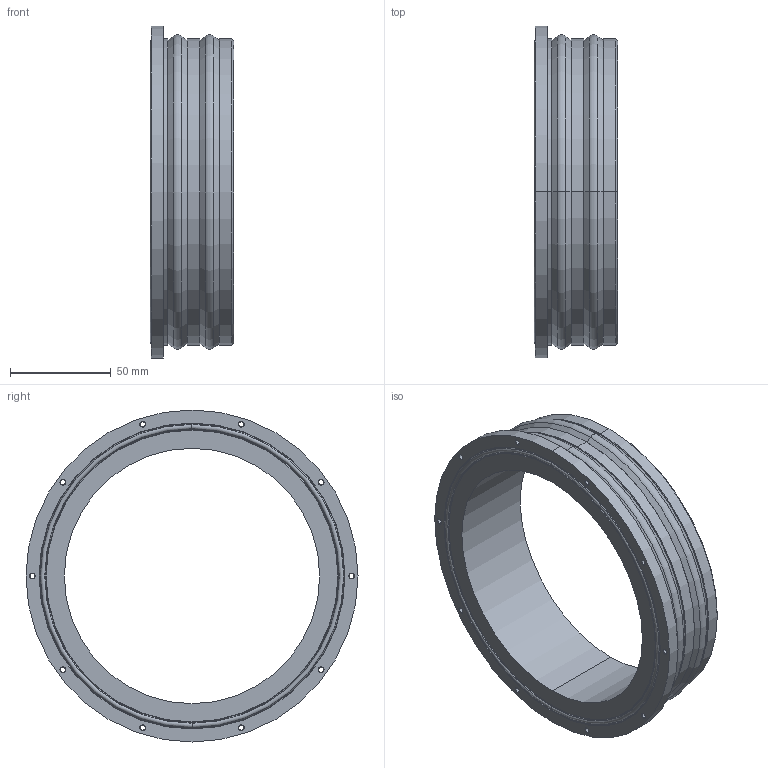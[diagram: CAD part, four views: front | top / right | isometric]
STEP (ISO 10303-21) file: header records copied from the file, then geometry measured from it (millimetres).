
FILE_DESCRIPTION (( 'STEP AP203' ), '1' );
FILE_NAME ('WTE6-M-FLANGE-SEAL-R1.STEP', '2017-03-01T17:42:09', ( '' ), ( '' ), 'SwSTEP 2.0', 'SolidWorks 2014', '' );
FILE_SCHEMA (( 'CONFIG_CONTROL_DESIGN' ));
Length unit declared in the file: millimetre
Products named in the file (1): WTE6-M-FLANGE-SEAL-R1
Bounding box: 41.49 x 165.1 x 165.1 mm (x, y, z)
Volume: 254856.2 mm3; surface area: 57701.2 mm2
Topology: 1 solids, 1 shells, 120 faces, 268 edges, 152 vertices
Faces by surface type: cone 64, cylinder 42, plane 8, torus 6
Entity records: 3387 total; most frequent: DIRECTION 656, CARTESIAN_POINT 533, ORIENTED_EDGE 520, AXIS2_PLACEMENT_3D 275, EDGE_CURVE 260, CIRCLE 154, EDGE_LOOP 152, VERTEX_POINT 152
